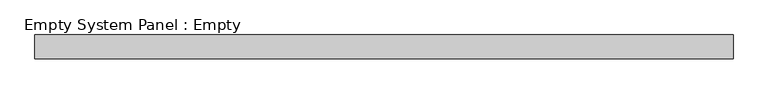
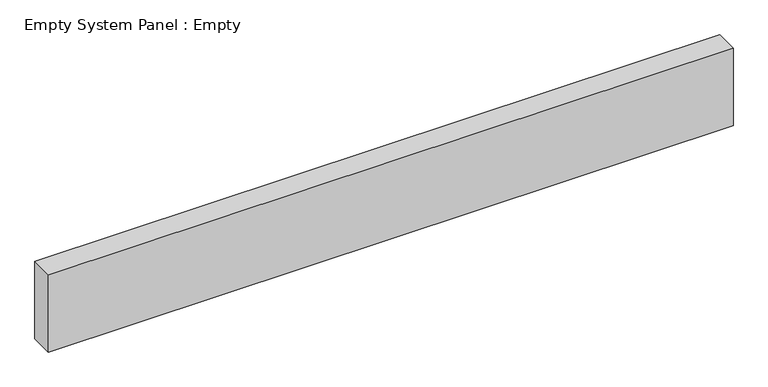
"""IFC4 building model written with IfcOpenShell, lengths in millimetres: plate geometry, Empty System Panel : Empty."""

from ifc_helpers import new_model, si_unit, origin, origin_with_axes, place, context, project, spatial, polyline, outline, extrude, source, transform, mapped, element, save


def empty_system_panel_empty_a0d4dec4(model_context):
    return source(origin(), model_context, "Body", "SweptSolid", [
        extrude(outline(polyline([(1462.5, -50.0), (-1462.5, -50.0), (-1462.5, 50.0), (1462.5, 50.0), (1462.5, -50.0)])), origin_with_axes(), (0.0, 0.0, 1.0), 350.0),
    ])


if __name__ == "__main__":
    model = new_model("IFC4")
    model_context = context("Model", 3, world=origin())
    ifc_project = project(units=[si_unit("LENGTHUNIT", "METRE", prefix="MILLI")], contexts=[model_context])
    site = spatial("IfcSite", under=ifc_project)
    building = spatial("IfcBuilding", under=site)
    placement = place(None, origin())
    empty_system_panel_empty_shape = empty_system_panel_empty_a0d4dec4(model_context)
    element("IfcPlate", 1, ObjectType="Empty System Panel : Empty", at=placement, inside=building, context=model_context, shape_type="MappedRepresentation", body=[
        mapped(empty_system_panel_empty_shape, transform((0.0, 0.0, 0.0), x_axis=(1.0, 0.0, 0.0), y_axis=(0.0, 1.0, 0.0), z_axis=(0.0, 0.0, 1.0))),
    ])
    save(model, "model.ifc")
